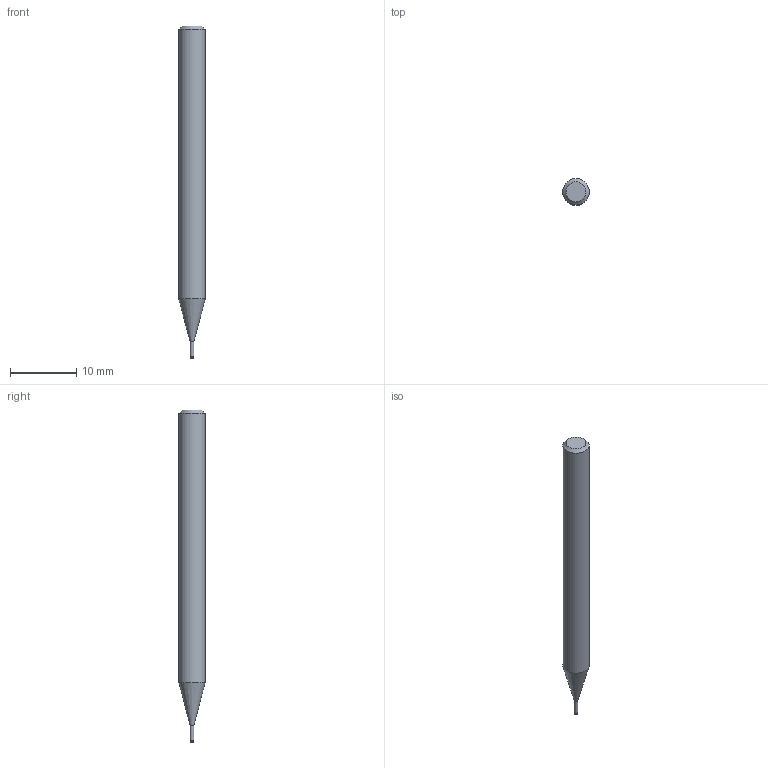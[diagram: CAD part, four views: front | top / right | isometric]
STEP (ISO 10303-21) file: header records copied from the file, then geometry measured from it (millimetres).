
FILE_DESCRIPTION((''),'2;1');
FILE_NAME('C:\Users\nsx150\AppData\Local\Temp\Mastercam 2021\LJSIDMOTM8\TEMP.step','2021-08-03T13:49:09',(''),(''),'STEP Write','Mastercam 2021 ... CNC Software, Inc.','');
FILE_SCHEMA(('AUTOMOTIVE_DESIGN'));
Length unit declared in the file: millimetre
Products named in the file (1): None
Bounding box: 4 x 4 x 50 mm (x, y, z)
Volume: 546.6 mm3; surface area: 577.6 mm2
Topology: 2 solids, 2 shells, 10 faces, 14 edges, 8 vertices
Faces by surface type: plane 4, cylinder 3, cone 2, torus 1
Full cylindrical faces by diameter (mm): 0.56 x1, 0.6 x1, 4 x1
Entity records: 232 total; most frequent: DIRECTION 40, CARTESIAN_POINT 28, AXIS2_PLACEMENT_3D 20, ORIENTED_EDGE 16, EDGE_LOOP 16, STYLED_ITEM 13, ADVANCED_FACE 10, FACE_BOUND 10
